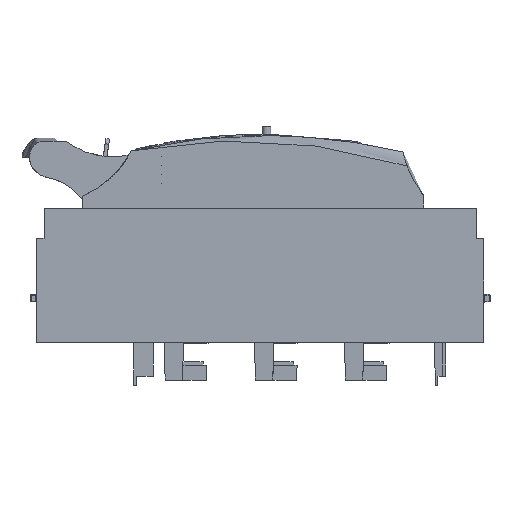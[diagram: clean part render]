
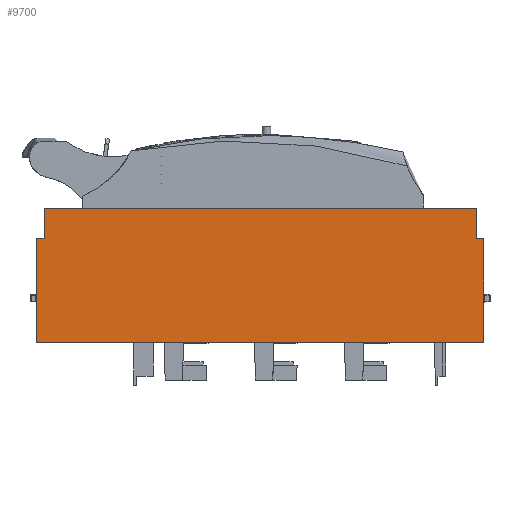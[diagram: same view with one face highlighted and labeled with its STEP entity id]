
A CAD part, front view. The second image highlights one B-rep face of the part: STEP entity #9700.
In plain terms, the highlighted planar face has unit normal (0, -1, 0).
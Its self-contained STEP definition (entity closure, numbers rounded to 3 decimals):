
#2654=LINE('',#33409,#5095);
#2680=LINE('',#33483,#5121);
#2839=LINE('',#36758,#5285);
#2848=LINE('',#36776,#5294);
#2849=LINE('',#36778,#5295);
#2850=LINE('',#36779,#5296);
#2851=LINE('',#36781,#5297);
#2852=LINE('',#36783,#5298);
#5095=VECTOR('',#27316,1.);
#5121=VECTOR('',#27370,1.);
#5285=VECTOR('',#27614,1.);
#5294=VECTOR('',#27627,1.);
#5295=VECTOR('',#27628,1.);
#5296=VECTOR('',#27629,1.);
#5297=VECTOR('',#27630,1.);
#5298=VECTOR('',#27631,1.);
#8125=PLANE('',#25802);
#8482=FACE_OUTER_BOUND('',#11257,.T.);
#9700=ADVANCED_FACE('',(#8482),#8125,.F.);
#11257=EDGE_LOOP('',(#13337,#13338,#13339,#13340,#13341,#13342,#13343,#13344));
#13337=ORIENTED_EDGE('',*,*,#22038,.T.);
#13338=ORIENTED_EDGE('',*,*,#22000,.F.);
#13339=ORIENTED_EDGE('',*,*,#22699,.F.);
#13340=ORIENTED_EDGE('',*,*,#22700,.T.);
#13341=ORIENTED_EDGE('',*,*,#22690,.F.);
#13342=ORIENTED_EDGE('',*,*,#22701,.T.);
#13343=ORIENTED_EDGE('',*,*,#22702,.F.);
#13344=ORIENTED_EDGE('',*,*,#22703,.F.);
#19630=VERTEX_POINT('',#33358);
#19654=VERTEX_POINT('',#33408);
#19689=VERTEX_POINT('',#33484);
#20321=VERTEX_POINT('',#36759);
#20322=VERTEX_POINT('',#36760);
#20328=VERTEX_POINT('',#36777);
#20329=VERTEX_POINT('',#36780);
#20330=VERTEX_POINT('',#36782);
#22000=EDGE_CURVE('',#19654,#19630,#2654,.T.);
#22038=EDGE_CURVE('',#19689,#19630,#2680,.T.);
#22690=EDGE_CURVE('',#20321,#20322,#2839,.T.);
#22699=EDGE_CURVE('',#20328,#19654,#2848,.T.);
#22700=EDGE_CURVE('',#20328,#20322,#2849,.T.);
#22701=EDGE_CURVE('',#20321,#20329,#2850,.T.);
#22702=EDGE_CURVE('',#20330,#20329,#2851,.T.);
#22703=EDGE_CURVE('',#19689,#20330,#2852,.T.);
#25802=AXIS2_PLACEMENT_3D('',#36784,#27632,#27633);
#27316=DIRECTION('',(0.,0.,-1.));
#27370=DIRECTION('',(1.,0.,0.));
#27614=DIRECTION('',(1.,0.,0.));
#27627=DIRECTION('',(0.999,0.,-0.052));
#27628=DIRECTION('',(0.,0.,1.));
#27629=DIRECTION('',(0.,0.,-1.));
#27630=DIRECTION('',(0.999,0.,0.052));
#27631=DIRECTION('',(0.,0.,1.));
#27632=DIRECTION('',(0.,1.,0.));
#27633=DIRECTION('',(0.,0.,1.));
#33358=CARTESIAN_POINT('',(197.5,-98.5,24.1));
#33408=CARTESIAN_POINT('',(197.5,-98.5,93.238));
#33409=CARTESIAN_POINT('',(197.5,-98.5,34.));
#33483=CARTESIAN_POINT('',(-67.,-98.5,24.1));
#33484=CARTESIAN_POINT('',(-100.5,-98.5,24.1));
#36758=CARTESIAN_POINT('',(153.,-98.5,113.5));
#36759=CARTESIAN_POINT('',(-95.5,-98.5,113.5));
#36760=CARTESIAN_POINT('',(192.5,-98.5,113.5));
#36776=CARTESIAN_POINT('',(192.5,-98.5,93.5));
#36777=CARTESIAN_POINT('',(192.5,-98.5,93.5));
#36778=CARTESIAN_POINT('',(192.5,-98.5,106.5));
#36779=CARTESIAN_POINT('',(-95.5,-98.5,106.5));
#36780=CARTESIAN_POINT('',(-95.5,-98.5,93.5));
#36781=CARTESIAN_POINT('',(-95.5,-98.5,93.5));
#36782=CARTESIAN_POINT('',(-100.5,-98.5,93.238));
#36783=CARTESIAN_POINT('',(-100.5,-98.5,34.));
#36784=CARTESIAN_POINT('',(-67.,-98.5,34.));
